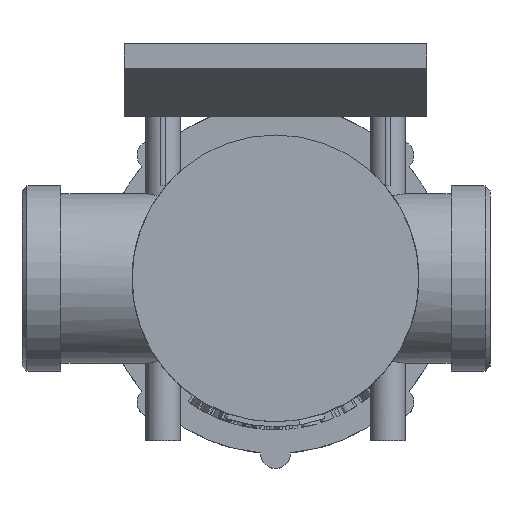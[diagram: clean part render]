
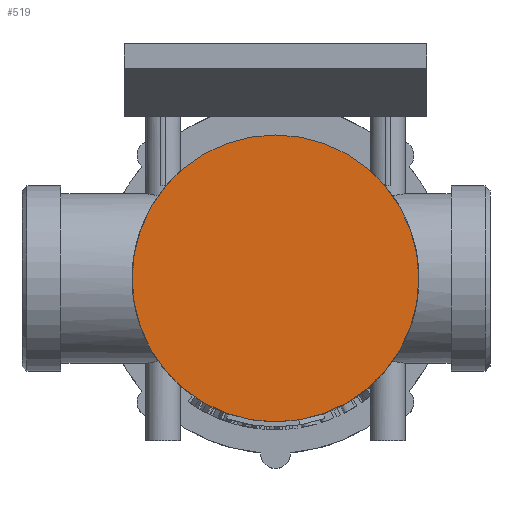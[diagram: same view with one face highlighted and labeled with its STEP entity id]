
A CAD part, top view. The second image highlights one B-rep face of the part: STEP entity #519.
In plain terms, the highlighted planar face has unit normal (0, 0, 1).
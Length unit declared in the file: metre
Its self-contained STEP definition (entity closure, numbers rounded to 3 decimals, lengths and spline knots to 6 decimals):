
#519 = ADVANCED_FACE( '', ( #1398 ), #1399, .T. );
#1398 = FACE_OUTER_BOUND( '', #3208, .T. );
#1399 = PLANE( '', #3209 );
#3208 = EDGE_LOOP( '', ( #12330, #12331 ) );
#3209 = AXIS2_PLACEMENT_3D( '', #12332, #12333, #12334 );
#12330 = ORIENTED_EDGE( '', *, *, #15339, .T. );
#12331 = ORIENTED_EDGE( '', *, *, #15334, .T. );
#12332 = CARTESIAN_POINT( '', ( 0.0039, 0., 0.07 ) );
#12333 = DIRECTION( '', ( 0., 0., 1. ) );
#12334 = DIRECTION( '', ( 1., 0., 0. ) );
#15334 = EDGE_CURVE( '', #16916, #16914, #16917, .T. );
#15339 = EDGE_CURVE( '', #16914, #16916, #16924, .T. );
#16914 = VERTEX_POINT( '', #19814 );
#16916 = VERTEX_POINT( '', #19839 );
#16917 = CIRCLE( '', #19840, 0.02875 );
#16924 = CIRCLE( '', #19985, 0.02875 );
#19814 = CARTESIAN_POINT( '', ( 0.03265, 0., 0.07 ) );
#19839 = CARTESIAN_POINT( '', ( -0.02485, 0., 0.07 ) );
#19840 = AXIS2_PLACEMENT_3D( '', #24548, #24549, #24550 );
#19985 = AXIS2_PLACEMENT_3D( '', #24551, #24552, #24553 );
#24548 = CARTESIAN_POINT( '', ( 0.0039, 0., 0.07 ) );
#24549 = DIRECTION( '', ( 0., 0., 1. ) );
#24550 = DIRECTION( '', ( 1., 0., 0. ) );
#24551 = CARTESIAN_POINT( '', ( 0.0039, 0., 0.07 ) );
#24552 = DIRECTION( '', ( 0., 0., 1. ) );
#24553 = DIRECTION( '', ( 1., 0., 0. ) );
